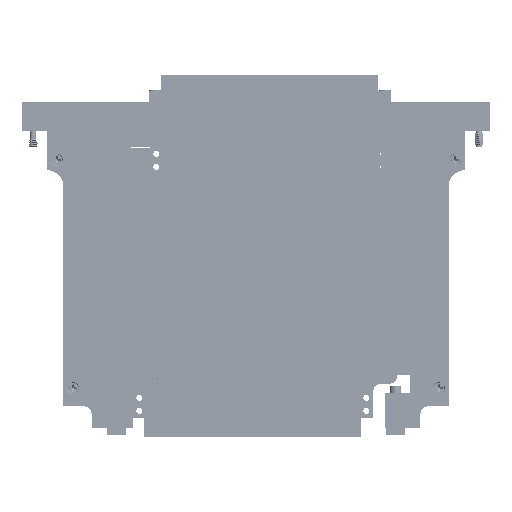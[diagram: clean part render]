
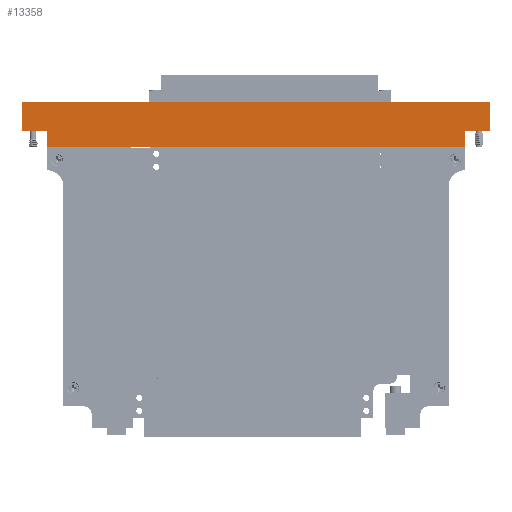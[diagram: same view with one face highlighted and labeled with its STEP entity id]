
A CAD part, left-side view. The second image highlights one B-rep face of the part: STEP entity #13358.
In plain terms, the highlighted planar face has unit normal (-1, 0, 0).
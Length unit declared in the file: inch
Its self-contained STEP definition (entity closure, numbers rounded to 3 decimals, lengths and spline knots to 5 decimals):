
#12879=CARTESIAN_POINT('',(0.00051,2.27158,-5.22604));
#12880=VERTEX_POINT('',#12879);
#12887=CARTESIAN_POINT('',(0.00051,2.27158,-5.66604));
#12888=VERTEX_POINT('',#12887);
#12889=CARTESIAN_POINT('',(0.00051,2.27158,-5.22604));
#12890=DIRECTION('',(0.0,0.0,-1.0));
#12891=VECTOR('',#12890,0.44);
#12892=LINE('',#12889,#12891);
#12893=EDGE_CURVE('',#12880,#12888,#12892,.T.);
#13044=CARTESIAN_POINT('',(0.00051,9.48658,-5.66604));
#13045=VERTEX_POINT('',#13044);
#13052=CARTESIAN_POINT('',(0.00051,9.48658,-5.22604));
#13053=VERTEX_POINT('',#13052);
#13054=CARTESIAN_POINT('',(0.00051,9.48658,-5.22604));
#13055=DIRECTION('',(0.0,0.0,-1.0));
#13056=VECTOR('',#13055,0.44);
#13057=LINE('',#13054,#13056);
#13058=EDGE_CURVE('',#13053,#13045,#13057,.T.);
#13115=CARTESIAN_POINT('',(0.00051,2.65908,-5.91104));
#13116=VERTEX_POINT('',#13115);
#13123=CARTESIAN_POINT('',(0.00051,9.09908,-5.91104));
#13124=VERTEX_POINT('',#13123);
#13125=CARTESIAN_POINT('',(0.00051,9.09908,-5.91104));
#13126=DIRECTION('',(0.0,-1.0,0.0));
#13127=VECTOR('',#13126,6.44);
#13128=LINE('',#13125,#13127);
#13129=EDGE_CURVE('',#13124,#13116,#13128,.T.);
#13242=CARTESIAN_POINT('',(0.00051,9.09908,-5.66604));
#13243=VERTEX_POINT('',#13242);
#13252=CARTESIAN_POINT('',(0.00051,9.09908,-5.66604));
#13253=DIRECTION('',(0.0,0.0,-1.0));
#13254=VECTOR('',#13253,0.245);
#13255=LINE('',#13252,#13254);
#13256=EDGE_CURVE('',#13243,#13124,#13255,.T.);
#13266=CARTESIAN_POINT('',(0.00051,2.65908,-5.66604));
#13267=VERTEX_POINT('',#13266);
#13274=CARTESIAN_POINT('',(0.00051,2.65908,-5.66604));
#13275=DIRECTION('',(0.0,0.0,-1.0));
#13276=VECTOR('',#13275,0.245);
#13277=LINE('',#13274,#13276);
#13278=EDGE_CURVE('',#13267,#13116,#13277,.T.);
#13303=CARTESIAN_POINT('',(0.00051,2.65908,-5.66604));
#13304=DIRECTION('',(0.0,-1.0,0.0));
#13305=VECTOR('',#13304,0.3875);
#13306=LINE('',#13303,#13305);
#13307=EDGE_CURVE('',#13267,#12888,#13306,.T.);
#13326=CARTESIAN_POINT('',(0.00051,9.48658,-5.66604));
#13327=DIRECTION('',(0.0,-1.0,0.0));
#13328=VECTOR('',#13327,0.3875);
#13329=LINE('',#13326,#13328);
#13330=EDGE_CURVE('',#13045,#13243,#13329,.T.);
#13338=CARTESIAN_POINT('',(0.00051,2.65908,-5.22604));
#13339=DIRECTION('',(-1.0,0.0,0.0));
#13340=DIRECTION('',(0.0,0.0,1.0));
#13341=AXIS2_PLACEMENT_3D('',#13338,#13339,#13340);
#13342=PLANE('',#13341);
#13343=CARTESIAN_POINT('',(0.00051,9.48658,-5.22604));
#13344=DIRECTION('',(0.0,-1.0,0.0));
#13345=VECTOR('',#13344,7.215);
#13346=LINE('',#13343,#13345);
#13347=EDGE_CURVE('',#13053,#12880,#13346,.T.);
#13348=ORIENTED_EDGE('',*,*,#13347,.F.);
#13349=ORIENTED_EDGE('',*,*,#13058,.T.);
#13350=ORIENTED_EDGE('',*,*,#13330,.T.);
#13351=ORIENTED_EDGE('',*,*,#13256,.T.);
#13352=ORIENTED_EDGE('',*,*,#13129,.T.);
#13353=ORIENTED_EDGE('',*,*,#13278,.F.);
#13354=ORIENTED_EDGE('',*,*,#13307,.T.);
#13355=ORIENTED_EDGE('',*,*,#12893,.F.);
#13356=EDGE_LOOP('',(#13348,#13349,#13350,#13351,#13352,#13353,#13354,#13355));
#13357=FACE_OUTER_BOUND('',#13356,.T.);
#13358=ADVANCED_FACE('',(#13357),#13342,.T.);
